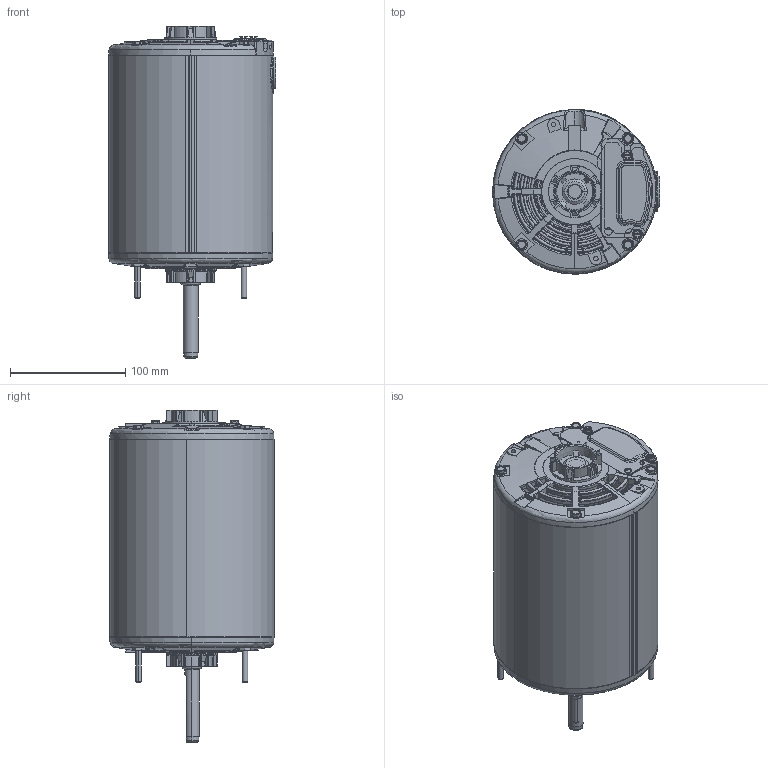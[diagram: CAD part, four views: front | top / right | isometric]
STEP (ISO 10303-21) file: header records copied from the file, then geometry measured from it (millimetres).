
FILE_DESCRIPTION (( 'STEP AP203' ), '1' );
FILE_NAME ('SS75127-675_Rev03.STEP', '2018-08-28T13:13:23', ( '' ), ( '' ), 'SwSTEP 2.0', 'SolidWorks 2015', '' );
FILE_SCHEMA (( 'CONFIG_CONTROL_DESIGN' ));
Length unit declared in the file: inch
Products named in the file (1): SS75127-675_Rev03
Bounding box: 144.72 x 143.09 x 287.61 mm (x, y, z)
Volume: 328089.8 mm3; surface area: 316266.1 mm2
Topology: 21 solids, 21 shells, 3843 faces, 9683 edges, 5920 vertices
Faces by surface type: plane 1003, bspline 812, cylinder 717, torus 709, cone 573, sphere 29
Entity records: 146760 total; most frequent: CARTESIAN_POINT 60966, ORIENTED_EDGE 19292, DIRECTION 16754, EDGE_CURVE 9646, AXIS2_PLACEMENT_3D 7063, VERTEX_POINT 5918, CIRCLE 4031, EDGE_LOOP 3978
